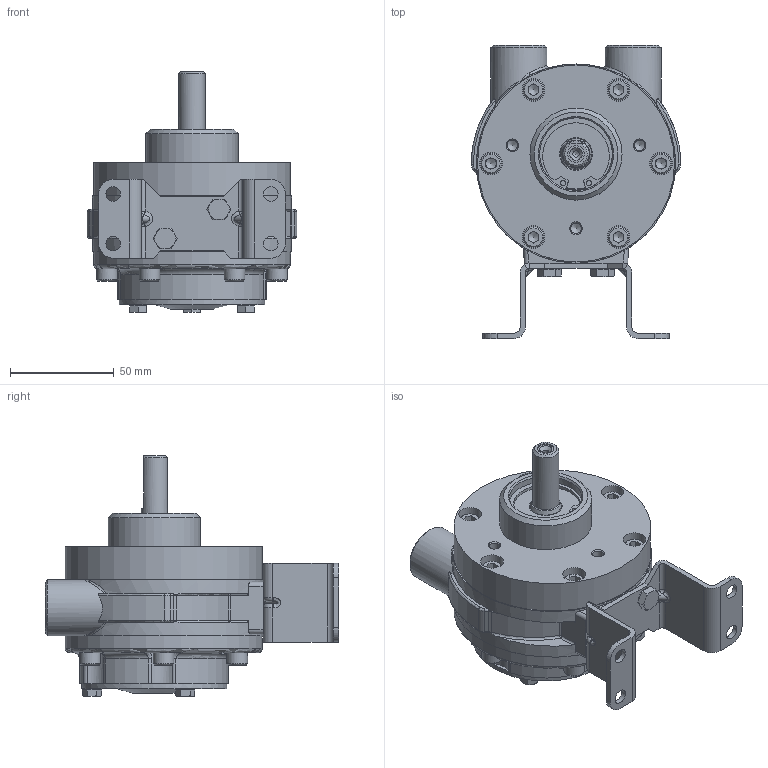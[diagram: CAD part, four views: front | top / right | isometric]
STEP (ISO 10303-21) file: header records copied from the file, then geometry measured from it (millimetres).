
FILE_DESCRIPTION (( 'STEP AP214' ), '1' );
FILE_NAME ('VA2J Defeature.STEP', '2022-05-24T14:39:11', ( '' ), ( '' ), 'SwSTEP 2.0', 'SolidWorks 2020', '' );
FILE_SCHEMA (( 'AUTOMOTIVE_DESIGN' ));
Length unit declared in the file: millimetre
Products named in the file (1): VA2J Defeature
Bounding box: 101 x 141.4 x 116.2 mm (x, y, z)
Volume: 486362.8 mm3; surface area: 60905.1 mm2
Topology: 1 solids, 1 shells, 624 faces, 1504 edges, 896 vertices
Faces by surface type: plane 326, cylinder 140, cone 75, bspline 68, torus 11, sphere 4
Full cylindrical faces by diameter (mm): 2.5 x2, 3 x1, 5.105 x3, 7 x4, 8 x4, 10 x14, 11 x6, 12.7 x1, 14.95 x2, 15 x1, 15.3 x1, 17.1 x1, 27 x2, 34 x1, 35 x2, 37 x1, 44.4 x1, 70 x1, 95 x2
Entity records: 23938 total; most frequent: CARTESIAN_POINT 7938, DIRECTION 2730, ORIENTED_EDGE 2668, EDGE_CURVE 1334, AXIS2_PLACEMENT_3D 1051, VERTEX_POINT 841, EDGE_LOOP 765, FACE_OUTER_BOUND 677
